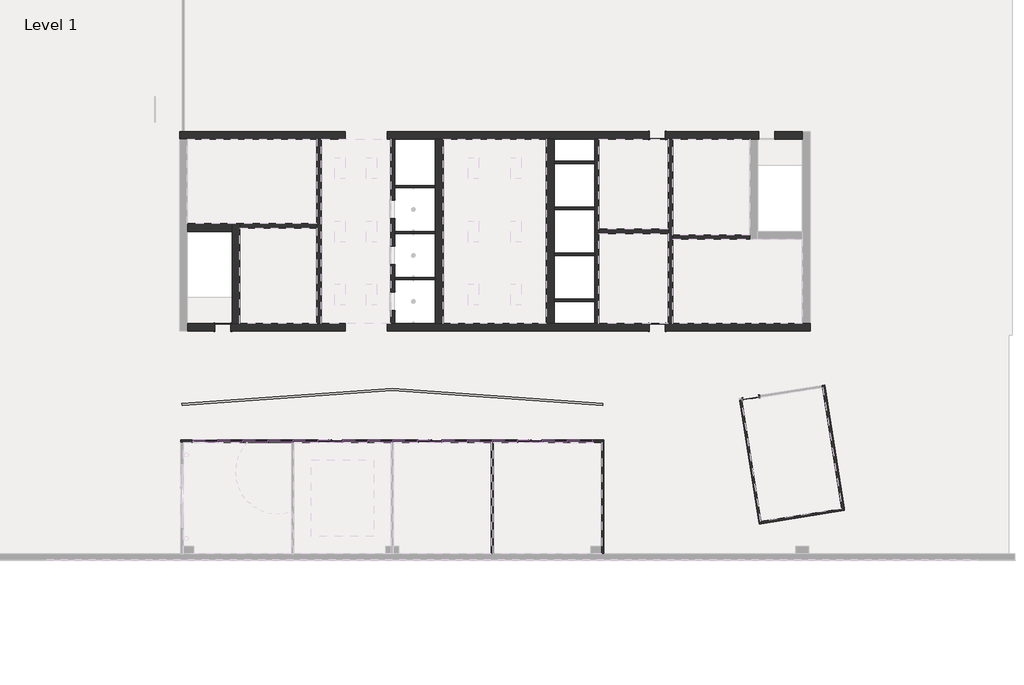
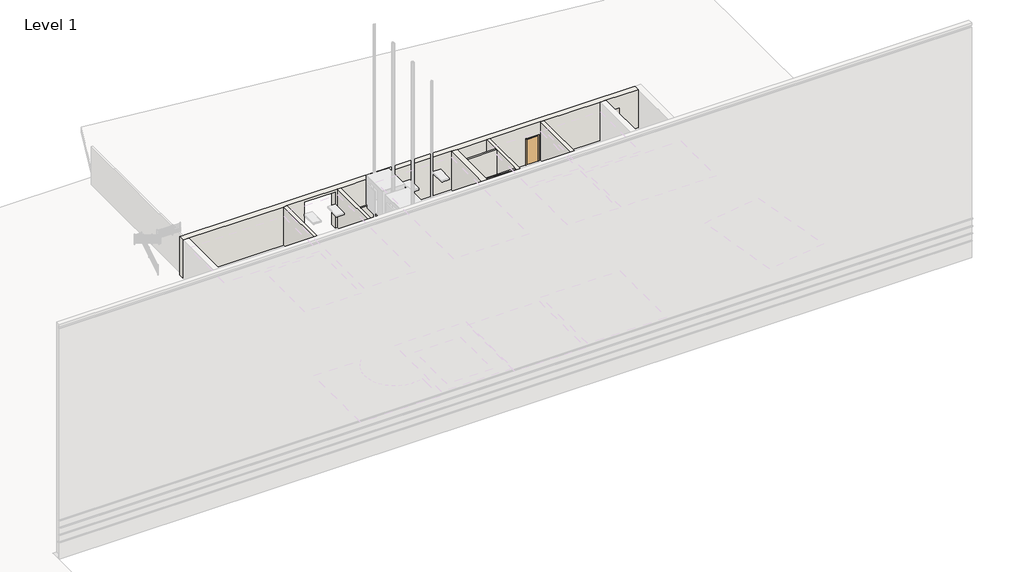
# One storey, part 7 of 23: 44 members, 27 walls, 13 plates, 7 doors.
"""IFC4 building model written with IfcOpenShell, lengths in millimetres."""

from ifc_helpers import new_model, si_unit, point, frame, frame_2d, origin, origin_with_axes, place, context, project, spatial, polyline, circle_curve, trimmed, segment, composite_curve, outline, extrude, faceted_brep, transform, mapped, element, save
from components import curtain_wall_dbl_glass_curtain_wall_dbl_glass_523d1701, door_a1797ceb, door_3c99239a, door_aec9db07, member_5adcf121, member_e7ed5742, member_19b6149e, member_c3403f11, system_panel_glazed_9bc9b24f, system_panel_glazed_76e4750d

model = new_model("IFC4")

# Units and contexts
model_context = context("Model", 3, world=origin())
ifc_project = project(units=[si_unit("LENGTHUNIT", "METRE", prefix="MILLI")], contexts=[model_context])

# Site, building, storey
site = spatial("IfcSite", under=ifc_project)
building = spatial("IfcBuilding", under=site)
storey = spatial("IfcBuildingStorey", under=building, Name="Level 1", Elevation=0.0)

# Doors
placement = place(None, origin())
curtain_wall_dbl_glass_curtain_wall_dbl_glass_shape = curtain_wall_dbl_glass_curtain_wall_dbl_glass_523d1701(model_context)
element("IfcDoor", 1, ObjectType="Curtain Wall Dbl Glass : Curtain Wall Dbl Glass", at=placement, inside=storey, context=model_context, shape_type="MappedRepresentation", body=[
    mapped(curtain_wall_dbl_glass_curtain_wall_dbl_glass_shape, transform((-24482.1740426, -21198.8103492, -25.4), x_axis=(-1.0, 0.0, 0.0), y_axis=(0.0, -1.0, 0.0), z_axis=(0.0, 0.0, 1.0))),
])
element("IfcDoor", 2, ObjectType="Curtain Wall Dbl Glass : Curtain Wall Dbl Glass", at=placement, inside=storey, context=model_context, shape_type="MappedRepresentation", body=[
    mapped(curtain_wall_dbl_glass_curtain_wall_dbl_glass_shape, transform((-18697.3240426, -21198.8103492, -25.4), x_axis=(-1.0, 0.0, 0.0), y_axis=(0.0, -1.0, 0.0), z_axis=(0.0, 0.0, 1.0))),
])
element("IfcDoor", 3, ObjectType="Curtain Wall Dbl Glass : Curtain Wall Dbl Glass", at=placement, inside=storey, context=model_context, shape_type="MappedRepresentation", body=[
    mapped(curtain_wall_dbl_glass_curtain_wall_dbl_glass_shape, transform((-12912.4740426, -21198.8103492, -25.4), x_axis=(-1.0, 0.0, 0.0), y_axis=(0.0, -1.0, 0.0), z_axis=(0.0, 0.0, 1.0))),
])
door_shape = door_a1797ceb(model_context)
element("IfcDoor", 4, ObjectType="Single-Flush : 36\" x 84\"", at=placement, inside=storey, context=model_context, shape_type="MappedRepresentation", body=[
    mapped(door_shape, transform((-99.7033757, -18682.6442583, 0.0), x_axis=(-0.9876883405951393, -0.15643446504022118, 0.0), y_axis=(0.15643446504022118, -0.9876883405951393, 0.0), z_axis=(0.0, 0.0, 1.0))),
])
door_2_shape = door_3c99239a(model_context)
element("IfcDoor", 5, ObjectType="Single-Flush : 36\" x 84\"", at=placement, inside=storey, context=model_context, shape_type="MappedRepresentation", body=[
    mapped(door_2_shape, transform((-30700.0713641, -14594.8103492, 0.0), x_axis=(1.0, 0.0, 0.0), y_axis=(0.0, 1.0, 0.0), z_axis=(0.0, 0.0, 1.0))),
])
element("IfcDoor", 6, ObjectType="Single-Flush : 36\" x 84\"", at=placement, inside=storey, context=model_context, shape_type="MappedRepresentation", body=[
    mapped(door_2_shape, transform((-5525.0427926, -14594.8103492, 0.0), x_axis=(1.0, 0.0, 0.0), y_axis=(0.0, 1.0, 0.0), z_axis=(0.0, 0.0, 1.0))),
])
door_3_shape = door_aec9db07(model_context)
element("IfcDoor", 7, ObjectType="Single-Flush : 36\" x 84\"", at=placement, inside=storey, context=model_context, shape_type="MappedRepresentation", body=[
    mapped(door_3_shape, transform((-5525.0427926, -3469.6103492, 0.0), x_axis=(1.0, 0.0, 0.0), y_axis=(0.0, 1.0, 0.0), z_axis=(0.0, 0.0, 1.0))),
])

# Members
member_shape = member_5adcf121(model_context)
element("IfcMember", 8, ObjectType="Rectangular Mullion : 2.5\" x 5\" rectangular", at=placement, inside=storey, context=model_context, shape_type="MappedRepresentation", body=[
    mapped(member_shape, transform((-30990.1302926, -21198.8103492, 38.1), x_axis=(1.0, 0.0, 0.0), y_axis=(0.0, -1.0, 0.0), z_axis=(0.0, 0.0, -1.0))),
])
element("IfcMember", 9, ObjectType="Rectangular Mullion : 2.5\" x 5\" rectangular", at=placement, inside=storey, context=model_context, shape_type="MappedRepresentation", body=[
    mapped(member_shape, transform((-29543.9177926, -21198.8103492, 38.1), x_axis=(1.0, 0.0, 0.0), y_axis=(0.0, -1.0, 0.0), z_axis=(0.0, 0.0, -1.0))),
])
element("IfcMember", 10, ObjectType="Rectangular Mullion : 2.5\" x 5\" rectangular", at=placement, inside=storey, context=model_context, shape_type="MappedRepresentation", body=[
    mapped(member_shape, transform((-28097.7052926, -21198.8103492, 38.1), x_axis=(1.0, 0.0, 0.0), y_axis=(0.0, -1.0, 0.0), z_axis=(0.0, 0.0, -1.0))),
])
element("IfcMember", 11, ObjectType="Rectangular Mullion : 2.5\" x 5\" rectangular", at=placement, inside=storey, context=model_context, shape_type="MappedRepresentation", body=[
    mapped(member_shape, transform((-26651.4927926, -21198.8103492, 38.1), x_axis=(1.0, 0.0, 0.0), y_axis=(0.0, -1.0, 0.0), z_axis=(0.0, 0.0, -1.0))),
])
element("IfcMember", 12, ObjectType="Rectangular Mullion : 2.5\" x 5\" rectangular", at=placement, inside=storey, context=model_context, shape_type="MappedRepresentation", body=[
    mapped(member_shape, transform((-25205.2802926, -21198.8103492, 38.1), x_axis=(1.0, 0.0, 0.0), y_axis=(0.0, -1.0, 0.0), z_axis=(0.0, 0.0, -1.0))),
])
element("IfcMember", 13, ObjectType="Rectangular Mullion : 2.5\" x 5\" rectangular", at=placement, inside=storey, context=model_context, shape_type="MappedRepresentation", body=[
    mapped(member_shape, transform((-23759.0677926, -21198.8103492, 38.1), x_axis=(1.0, 0.0, 0.0), y_axis=(0.0, -1.0, 0.0), z_axis=(0.0, 0.0, -1.0))),
])
element("IfcMember", 14, ObjectType="Rectangular Mullion : 2.5\" x 5\" rectangular", at=placement, inside=storey, context=model_context, shape_type="MappedRepresentation", body=[
    mapped(member_shape, transform((-22312.8552926, -21198.8103492, 38.1), x_axis=(1.0, 0.0, 0.0), y_axis=(0.0, -1.0, 0.0), z_axis=(0.0, 0.0, -1.0))),
])
element("IfcMember", 15, ObjectType="Rectangular Mullion : 2.5\" x 5\" rectangular", at=placement, inside=storey, context=model_context, shape_type="MappedRepresentation", body=[
    mapped(member_shape, transform((-20866.6427926, -21198.8103492, 38.1), x_axis=(1.0, 0.0, 0.0), y_axis=(0.0, -1.0, 0.0), z_axis=(0.0, 0.0, -1.0))),
])
element("IfcMember", 16, ObjectType="Rectangular Mullion : 2.5\" x 5\" rectangular", at=placement, inside=storey, context=model_context, shape_type="MappedRepresentation", body=[
    mapped(member_shape, transform((-19420.4302926, -21198.8103492, 38.1), x_axis=(1.0, 0.0, 0.0), y_axis=(0.0, -1.0, 0.0), z_axis=(0.0, 0.0, -1.0))),
])
element("IfcMember", 17, ObjectType="Rectangular Mullion : 2.5\" x 5\" rectangular", at=placement, inside=storey, context=model_context, shape_type="MappedRepresentation", body=[
    mapped(member_shape, transform((-17974.2177926, -21198.8103492, 38.1), x_axis=(1.0, 0.0, 0.0), y_axis=(0.0, -1.0, 0.0), z_axis=(0.0, 0.0, -1.0))),
])
element("IfcMember", 18, ObjectType="Rectangular Mullion : 2.5\" x 5\" rectangular", at=placement, inside=storey, context=model_context, shape_type="MappedRepresentation", body=[
    mapped(member_shape, transform((-16528.0052926, -21198.8103492, 38.1), x_axis=(1.0, 0.0, 0.0), y_axis=(0.0, -1.0, 0.0), z_axis=(0.0, 0.0, -1.0))),
])
element("IfcMember", 19, ObjectType="Rectangular Mullion : 2.5\" x 5\" rectangular", at=placement, inside=storey, context=model_context, shape_type="MappedRepresentation", body=[
    mapped(member_shape, transform((-15081.7927926, -21198.8103492, 38.1), x_axis=(1.0, 0.0, 0.0), y_axis=(0.0, -1.0, 0.0), z_axis=(0.0, 0.0, -1.0))),
])
element("IfcMember", 20, ObjectType="Rectangular Mullion : 2.5\" x 5\" rectangular", at=placement, inside=storey, context=model_context, shape_type="MappedRepresentation", body=[
    mapped(member_shape, transform((-13635.5802926, -21198.8103492, 38.1), x_axis=(1.0, 0.0, 0.0), y_axis=(0.0, -1.0, 0.0), z_axis=(0.0, 0.0, -1.0))),
])
element("IfcMember", 21, ObjectType="Rectangular Mullion : 2.5\" x 5\" rectangular", at=placement, inside=storey, context=model_context, shape_type="MappedRepresentation", body=[
    mapped(member_shape, transform((-12189.3677926, -21198.8103492, 38.1), x_axis=(1.0, 0.0, 0.0), y_axis=(0.0, -1.0, 0.0), z_axis=(0.0, 0.0, -1.0))),
])
element("IfcMember", 22, ObjectType="Rectangular Mullion : 2.5\" x 5\" rectangular", at=placement, inside=storey, context=model_context, shape_type="MappedRepresentation", body=[
    mapped(member_shape, transform((-10743.1552926, -21198.8103492, 38.1), x_axis=(1.0, 0.0, 0.0), y_axis=(0.0, -1.0, 0.0), z_axis=(0.0, 0.0, -1.0))),
])
member_2_shape = member_e7ed5742(model_context)
element("IfcMember", 23, ObjectType="Rectangular Mullion : 2.5\" x 5\" rectangular", at=placement, inside=storey, context=model_context, shape_type="MappedRepresentation", body=[
    mapped(member_2_shape, transform((-9296.9427926, -21198.8103492, 38.1), x_axis=(1.0, 0.0, 0.0), y_axis=(0.0, -1.0, 0.0), z_axis=(0.0, 0.0, -1.0))),
])
member_3_shape = member_19b6149e(model_context)
element("IfcMember", 24, ObjectType="Rectangular Mullion : 2.5\" x 5\" rectangular", at=placement, inside=storey, context=model_context, shape_type="MappedRepresentation", body=[
    mapped(member_3_shape, transform((-9296.9427926, -21198.8103492, 2413.0), x_axis=(0.0, 0.0, 1.0), y_axis=(0.0, -1.0, 0.0), z_axis=(1.0, 0.0, 0.0))),
])
element("IfcMember", 25, ObjectType="Rectangular Mullion : 2.5\" x 5\" rectangular", at=placement, inside=storey, context=model_context, shape_type="MappedRepresentation", body=[
    mapped(member_3_shape, transform((-30990.1302926, -21198.8103492, 2413.0), x_axis=(0.0, 0.0, 1.0), y_axis=(0.0, -1.0, 0.0), z_axis=(1.0, 0.0, 0.0))),
])
element("IfcMember", 26, ObjectType="Rectangular Mullion : 2.5\" x 5\" rectangular", at=placement, inside=storey, context=model_context, shape_type="MappedRepresentation", body=[
    mapped(member_3_shape, transform((-29543.9177926, -21198.8103492, 2413.0), x_axis=(0.0, 0.0, 1.0), y_axis=(0.0, -1.0, 0.0), z_axis=(1.0, 0.0, 0.0))),
])
element("IfcMember", 27, ObjectType="Rectangular Mullion : 2.5\" x 5\" rectangular", at=placement, inside=storey, context=model_context, shape_type="MappedRepresentation", body=[
    mapped(member_3_shape, transform((-28097.7052926, -21198.8103492, 2413.0), x_axis=(0.0, 0.0, 1.0), y_axis=(0.0, -1.0, 0.0), z_axis=(1.0, 0.0, 0.0))),
])
element("IfcMember", 28, ObjectType="Rectangular Mullion : 2.5\" x 5\" rectangular", at=placement, inside=storey, context=model_context, shape_type="MappedRepresentation", body=[
    mapped(member_3_shape, transform((-26651.4927926, -21198.8103492, 2413.0), x_axis=(0.0, 0.0, 1.0), y_axis=(0.0, -1.0, 0.0), z_axis=(1.0, 0.0, 0.0))),
])
element("IfcMember", 29, ObjectType="Rectangular Mullion : 2.5\" x 5\" rectangular", at=placement, inside=storey, context=model_context, shape_type="MappedRepresentation", body=[
    mapped(member_3_shape, transform((-25205.2802926, -21198.8103492, 2413.0), x_axis=(0.0, 0.0, 1.0), y_axis=(0.0, -1.0, 0.0), z_axis=(1.0, 0.0, 0.0))),
])
element("IfcMember", 30, ObjectType="Rectangular Mullion : 2.5\" x 5\" rectangular", at=placement, inside=storey, context=model_context, shape_type="MappedRepresentation", body=[
    mapped(member_3_shape, transform((-23759.0677926, -21198.8103492, 2413.0), x_axis=(0.0, 0.0, 1.0), y_axis=(0.0, -1.0, 0.0), z_axis=(1.0, 0.0, 0.0))),
])
element("IfcMember", 31, ObjectType="Rectangular Mullion : 2.5\" x 5\" rectangular", at=placement, inside=storey, context=model_context, shape_type="MappedRepresentation", body=[
    mapped(member_3_shape, transform((-22312.8552926, -21198.8103492, 2413.0), x_axis=(0.0, 0.0, 1.0), y_axis=(0.0, -1.0, 0.0), z_axis=(1.0, 0.0, 0.0))),
])
element("IfcMember", 32, ObjectType="Rectangular Mullion : 2.5\" x 5\" rectangular", at=placement, inside=storey, context=model_context, shape_type="MappedRepresentation", body=[
    mapped(member_3_shape, transform((-20866.6427926, -21198.8103492, 2413.0), x_axis=(0.0, 0.0, 1.0), y_axis=(0.0, -1.0, 0.0), z_axis=(1.0, 0.0, 0.0))),
])
element("IfcMember", 33, ObjectType="Rectangular Mullion : 2.5\" x 5\" rectangular", at=placement, inside=storey, context=model_context, shape_type="MappedRepresentation", body=[
    mapped(member_3_shape, transform((-19420.4302926, -21198.8103492, 2413.0), x_axis=(0.0, 0.0, 1.0), y_axis=(0.0, -1.0, 0.0), z_axis=(1.0, 0.0, 0.0))),
])
element("IfcMember", 34, ObjectType="Rectangular Mullion : 2.5\" x 5\" rectangular", at=placement, inside=storey, context=model_context, shape_type="MappedRepresentation", body=[
    mapped(member_3_shape, transform((-17974.2177926, -21198.8103492, 2413.0), x_axis=(0.0, 0.0, 1.0), y_axis=(0.0, -1.0, 0.0), z_axis=(1.0, 0.0, 0.0))),
])
element("IfcMember", 35, ObjectType="Rectangular Mullion : 2.5\" x 5\" rectangular", at=placement, inside=storey, context=model_context, shape_type="MappedRepresentation", body=[
    mapped(member_3_shape, transform((-16528.0052926, -21198.8103492, 2413.0), x_axis=(0.0, 0.0, 1.0), y_axis=(0.0, -1.0, 0.0), z_axis=(1.0, 0.0, 0.0))),
])
element("IfcMember", 36, ObjectType="Rectangular Mullion : 2.5\" x 5\" rectangular", at=placement, inside=storey, context=model_context, shape_type="MappedRepresentation", body=[
    mapped(member_3_shape, transform((-15081.7927926, -21198.8103492, 2413.0), x_axis=(0.0, 0.0, 1.0), y_axis=(0.0, -1.0, 0.0), z_axis=(1.0, 0.0, 0.0))),
])
element("IfcMember", 37, ObjectType="Rectangular Mullion : 2.5\" x 5\" rectangular", at=placement, inside=storey, context=model_context, shape_type="MappedRepresentation", body=[
    mapped(member_3_shape, transform((-13635.5802926, -21198.8103492, 2413.0), x_axis=(0.0, 0.0, 1.0), y_axis=(0.0, -1.0, 0.0), z_axis=(1.0, 0.0, 0.0))),
])
element("IfcMember", 38, ObjectType="Rectangular Mullion : 2.5\" x 5\" rectangular", at=placement, inside=storey, context=model_context, shape_type="MappedRepresentation", body=[
    mapped(member_3_shape, transform((-12189.3677926, -21198.8103492, 2413.0), x_axis=(0.0, 0.0, 1.0), y_axis=(0.0, -1.0, 0.0), z_axis=(1.0, 0.0, 0.0))),
])
element("IfcMember", 39, ObjectType="Rectangular Mullion : 2.5\" x 5\" rectangular", at=placement, inside=storey, context=model_context, shape_type="MappedRepresentation", body=[
    mapped(member_3_shape, transform((-10743.1552926, -21198.8103492, 2413.0), x_axis=(0.0, 0.0, 1.0), y_axis=(0.0, -1.0, 0.0), z_axis=(1.0, 0.0, 0.0))),
])
element("IfcMember", 40, ObjectType="Rectangular Mullion : 2.5\" x 5\" rectangular", at=placement, inside=storey, context=model_context, shape_type="MappedRepresentation", body=[
    mapped(member_3_shape, transform((-30990.1302926, -21198.8103492, -25.4), x_axis=(0.0, 0.0, -1.0), y_axis=(0.0, -1.0, 0.0), z_axis=(-1.0, 0.0, 0.0))),
])
element("IfcMember", 41, ObjectType="Rectangular Mullion : 2.5\" x 5\" rectangular", at=placement, inside=storey, context=model_context, shape_type="MappedRepresentation", body=[
    mapped(member_3_shape, transform((-29543.9177926, -21198.8103492, -25.4), x_axis=(0.0, 0.0, -1.0), y_axis=(0.0, -1.0, 0.0), z_axis=(-1.0, 0.0, 0.0))),
])
element("IfcMember", 42, ObjectType="Rectangular Mullion : 2.5\" x 5\" rectangular", at=placement, inside=storey, context=model_context, shape_type="MappedRepresentation", body=[
    mapped(member_3_shape, transform((-28097.7052926, -21198.8103492, -25.4), x_axis=(0.0, 0.0, -1.0), y_axis=(0.0, -1.0, 0.0), z_axis=(-1.0, 0.0, 0.0))),
])
element("IfcMember", 43, ObjectType="Rectangular Mullion : 2.5\" x 5\" rectangular", at=placement, inside=storey, context=model_context, shape_type="MappedRepresentation", body=[
    mapped(member_3_shape, transform((-22312.8552926, -21198.8103492, -25.4), x_axis=(0.0, 0.0, -1.0), y_axis=(0.0, -1.0, 0.0), z_axis=(-1.0, 0.0, 0.0))),
])
element("IfcMember", 44, ObjectType="Rectangular Mullion : 2.5\" x 5\" rectangular", at=placement, inside=storey, context=model_context, shape_type="MappedRepresentation", body=[
    mapped(member_3_shape, transform((-16528.0052926, -21198.8103492, -25.4), x_axis=(0.0, 0.0, -1.0), y_axis=(0.0, -1.0, 0.0), z_axis=(-1.0, 0.0, 0.0))),
])
element("IfcMember", 45, ObjectType="Rectangular Mullion : 2.5\" x 5\" rectangular", at=placement, inside=storey, context=model_context, shape_type="MappedRepresentation", body=[
    mapped(member_3_shape, transform((-10743.1552926, -21198.8103492, -25.4), x_axis=(0.0, 0.0, -1.0), y_axis=(0.0, -1.0, 0.0), z_axis=(-1.0, 0.0, 0.0))),
])
member_4_shape = member_c3403f11(model_context)
element("IfcMember", 46, ObjectType="Rectangular Mullion : 2.5\" x 5\" rectangular", at=placement, inside=storey, context=model_context, shape_type="MappedRepresentation", body=[
    mapped(member_4_shape, transform((-26651.4927926, -21198.8103492, -25.4), x_axis=(0.0, 0.0, -1.0), y_axis=(0.0, -1.0, 0.0), z_axis=(-1.0, 0.0, 0.0))),
])
element("IfcMember", 47, ObjectType="Rectangular Mullion : 2.5\" x 5\" rectangular", at=placement, inside=storey, context=model_context, shape_type="MappedRepresentation", body=[
    mapped(member_4_shape, transform((-20866.6427926, -21198.8103492, -25.4), x_axis=(0.0, 0.0, -1.0), y_axis=(0.0, -1.0, 0.0), z_axis=(-1.0, 0.0, 0.0))),
])
element("IfcMember", 48, ObjectType="Rectangular Mullion : 2.5\" x 5\" rectangular", at=placement, inside=storey, context=model_context, shape_type="MappedRepresentation", body=[
    mapped(member_4_shape, transform((-15081.7927926, -21198.8103492, -25.4), x_axis=(0.0, 0.0, -1.0), y_axis=(0.0, -1.0, 0.0), z_axis=(-1.0, 0.0, 0.0))),
])
element("IfcMember", 49, ObjectType="Rectangular Mullion : 2.5\" x 5\" rectangular", at=placement, inside=storey, context=model_context, shape_type="MappedRepresentation", body=[
    mapped(member_4_shape, transform((-23790.8177926, -21198.8103492, -25.4), x_axis=(0.0, 0.0, -1.0), y_axis=(0.0, -1.0, 0.0), z_axis=(-1.0, 0.0, 0.0))),
])
element("IfcMember", 50, ObjectType="Rectangular Mullion : 2.5\" x 5\" rectangular", at=placement, inside=storey, context=model_context, shape_type="MappedRepresentation", body=[
    mapped(member_4_shape, transform((-18005.9677926, -21198.8103492, -25.4), x_axis=(0.0, 0.0, -1.0), y_axis=(0.0, -1.0, 0.0), z_axis=(-1.0, 0.0, 0.0))),
])
element("IfcMember", 51, ObjectType="Rectangular Mullion : 2.5\" x 5\" rectangular", at=placement, inside=storey, context=model_context, shape_type="MappedRepresentation", body=[
    mapped(member_4_shape, transform((-12221.1177926, -21198.8103492, -25.4), x_axis=(0.0, 0.0, -1.0), y_axis=(0.0, -1.0, 0.0), z_axis=(-1.0, 0.0, 0.0))),
])

# Plates
system_panel_glazed_shape = system_panel_glazed_9bc9b24f(model_context)
element("IfcPlate", 52, ObjectType="System Panel : Glazed", at=placement, inside=storey, context=model_context, shape_type="MappedRepresentation", body=[
    mapped(system_panel_glazed_shape, transform((-31697.3615426, -21198.8103492, 38.1), x_axis=(1.0, 0.0, 0.0), y_axis=(0.0, 1.0, 0.0), z_axis=(0.0, 0.0, 1.0))),
])
element("IfcPlate", 53, ObjectType="System Panel : Glazed", at=placement, inside=storey, context=model_context, shape_type="MappedRepresentation", body=[
    mapped(system_panel_glazed_shape, transform((-10035.9240426, -21198.8103492, 38.1), x_axis=(1.0, 0.0, 0.0), y_axis=(0.0, 1.0, 0.0), z_axis=(0.0, 0.0, 1.0))),
])
system_panel_glazed_2_shape = system_panel_glazed_76e4750d(model_context)
element("IfcPlate", 54, ObjectType="System Panel : Glazed", at=placement, inside=storey, context=model_context, shape_type="MappedRepresentation", body=[
    mapped(system_panel_glazed_2_shape, transform((-30267.0240426, -21198.8103492, 38.1), x_axis=(1.0, 0.0, 0.0), y_axis=(0.0, 1.0, 0.0), z_axis=(0.0, 0.0, 1.0))),
])
element("IfcPlate", 55, ObjectType="System Panel : Glazed", at=placement, inside=storey, context=model_context, shape_type="MappedRepresentation", body=[
    mapped(system_panel_glazed_2_shape, transform((-28820.8115426, -21198.8103492, 38.1), x_axis=(1.0, 0.0, 0.0), y_axis=(0.0, 1.0, 0.0), z_axis=(0.0, 0.0, 1.0))),
])
element("IfcPlate", 56, ObjectType="System Panel : Glazed", at=placement, inside=storey, context=model_context, shape_type="MappedRepresentation", body=[
    mapped(system_panel_glazed_2_shape, transform((-27374.5990426, -21198.8103492, 38.1), x_axis=(1.0, 0.0, 0.0), y_axis=(0.0, 1.0, 0.0), z_axis=(0.0, 0.0, 1.0))),
])
element("IfcPlate", 57, ObjectType="System Panel : Glazed", at=placement, inside=storey, context=model_context, shape_type="MappedRepresentation", body=[
    mapped(system_panel_glazed_2_shape, transform((-25928.3865426, -21198.8103492, 38.1), x_axis=(1.0, 0.0, 0.0), y_axis=(0.0, 1.0, 0.0), z_axis=(0.0, 0.0, 1.0))),
])
element("IfcPlate", 58, ObjectType="System Panel : Glazed", at=placement, inside=storey, context=model_context, shape_type="MappedRepresentation", body=[
    mapped(system_panel_glazed_2_shape, transform((-23035.9615426, -21198.8103492, 38.1), x_axis=(1.0, 0.0, 0.0), y_axis=(0.0, 1.0, 0.0), z_axis=(0.0, 0.0, 1.0))),
])
element("IfcPlate", 59, ObjectType="System Panel : Glazed", at=placement, inside=storey, context=model_context, shape_type="MappedRepresentation", body=[
    mapped(system_panel_glazed_2_shape, transform((-21589.7490426, -21198.8103492, 38.1), x_axis=(1.0, 0.0, 0.0), y_axis=(0.0, 1.0, 0.0), z_axis=(0.0, 0.0, 1.0))),
])
element("IfcPlate", 60, ObjectType="System Panel : Glazed", at=placement, inside=storey, context=model_context, shape_type="MappedRepresentation", body=[
    mapped(system_panel_glazed_2_shape, transform((-20143.5365426, -21198.8103492, 38.1), x_axis=(1.0, 0.0, 0.0), y_axis=(0.0, 1.0, 0.0), z_axis=(0.0, 0.0, 1.0))),
])
element("IfcPlate", 61, ObjectType="System Panel : Glazed", at=placement, inside=storey, context=model_context, shape_type="MappedRepresentation", body=[
    mapped(system_panel_glazed_2_shape, transform((-17251.1115426, -21198.8103492, 38.1), x_axis=(1.0, 0.0, 0.0), y_axis=(0.0, 1.0, 0.0), z_axis=(0.0, 0.0, 1.0))),
])
element("IfcPlate", 62, ObjectType="System Panel : Glazed", at=placement, inside=storey, context=model_context, shape_type="MappedRepresentation", body=[
    mapped(system_panel_glazed_2_shape, transform((-15804.8990426, -21198.8103492, 38.1), x_axis=(1.0, 0.0, 0.0), y_axis=(0.0, 1.0, 0.0), z_axis=(0.0, 0.0, 1.0))),
])
element("IfcPlate", 63, ObjectType="System Panel : Glazed", at=placement, inside=storey, context=model_context, shape_type="MappedRepresentation", body=[
    mapped(system_panel_glazed_2_shape, transform((-14358.6865426, -21198.8103492, 38.1), x_axis=(1.0, 0.0, 0.0), y_axis=(0.0, 1.0, 0.0), z_axis=(0.0, 0.0, 1.0))),
])
element("IfcPlate", 64, ObjectType="System Panel : Glazed", at=placement, inside=storey, context=model_context, shape_type="MappedRepresentation", body=[
    mapped(system_panel_glazed_2_shape, transform((-11466.2615426, -21198.8103492, 38.1), x_axis=(1.0, 0.0, 0.0), y_axis=(0.0, 1.0, 0.0), z_axis=(0.0, 0.0, 1.0))),
])

# Walls
element("IfcWall", 65, ObjectType="Core-shaft 10\" Concrete", at=placement, inside=storey, context=model_context, shape_type="SweptSolid", body=[
    extrude(outline(polyline([(-3698.2103492, 0.0), (-7222.4603492, 0.0), (-7222.4603492, 2159.0), (-8301.9603492, 2159.0), (-8301.9603492, 0.0), (-9889.4603492, 0.0), (-9889.4603492, 2159.0), (-10968.9603492, 2159.0), (-10968.9603492, 0.0), (-12556.4603492, 0.0), (-12556.4603492, 2159.0), (-13635.9603492, 2159.0), (-13635.9603492, 0.0), (-14366.2103492, 0.0), (-14366.2103492, 3222.625), (-3698.2103492, 3222.625), (-3698.2103492, 0.0)])), frame((-20979.1285069, 0.0, 0.0), z_axis=(1.0, 0.0, 0.0), x_axis=(0.0, 1.0, 0.0)), (0.0, 0.0, 1.0), 254.0),
])
element("IfcWall", 66, ObjectType="Core-shaft 10\" Concrete", at=placement, inside=storey, context=model_context, shape_type="Brep", body=[
    faceted_brep([(-24992.3285069, -14366.2103492, 0.0), (-24992.3285069, -3698.2103492, 0.0), (-24992.3285069, -3698.2103492, 3222.625), (-24992.3285069, -14366.2103492, 3222.625), (-25246.3285069, -14366.2103492, 0.0), (-25246.3285069, -14366.2103492, 3222.625), (-25246.3285069, -8829.0103492, 3222.625), (-25246.3285069, -8575.0103492, 3222.625), (-25246.3285069, -3698.2103492, 3222.625), (-25246.3285069, -3698.2103492, 0.0), (-25246.3285069, -8575.0103492, 0.0), (-25246.3285069, -8829.0103492, 0.0)], [[[0, 1, 2, 3]], [[4, 5, 6, 7, 8, 9, 10, 11]], [[1, 0, 4, 11, 10, 9]], [[2, 1, 9, 8]], [[0, 3, 5, 4]], [[3, 2, 8, 7, 6, 5]]]),
])
element("IfcWall", 67, ObjectType="Core-shaft 10\" Concrete", at=placement, inside=storey, context=model_context, shape_type="SweptSolid", body=[
    extrude(outline(polyline([(-25246.3285069, -8829.0103492), (-29709.4713641, -8829.0103492), (-29709.4713641, -8575.0103492), (-25246.3285069, -8575.0103492), (-25246.3285069, -8829.0103492)])), origin_with_axes(), (0.0, 0.0, 1.0), 3222.625),
])
element("IfcWall", 68, ObjectType="Core-shaft 10\" Concrete", at=placement, inside=storey, context=model_context, shape_type="SweptSolid", body=[
    extrude(outline(polyline([(-8903.2427926, -3698.2103492), (-8903.2427926, -14366.2103492), (-9157.2427926, -14366.2103492), (-9157.2427926, -3698.2103492), (-8903.2427926, -3698.2103492)])), origin_with_axes(), (0.0, 0.0, 1.0), 3222.625),
])
element("IfcWall", 69, ObjectType="Core-shaft 10\" Concrete", at=placement, inside=storey, context=model_context, shape_type="Brep", body=[
    faceted_brep([(-4636.0427926, -14366.2103492, 0.0), (-4636.0427926, -9489.4103492, 0.0), (-4636.0427926, -9235.4103492, 0.0), (-4636.0427926, -3698.2103492, 0.0), (-4636.0427926, -3698.2103492, 3222.625), (-4636.0427926, -9235.4103492, 3222.625), (-4636.0427926, -9489.4103492, 3222.625), (-4636.0427926, -14366.2103492, 3222.625), (-4890.0427926, -14366.2103492, 0.0), (-4890.0427926, -14366.2103492, 3222.625), (-4890.0427926, -3698.2103492, 3222.625), (-4890.0427926, -3698.2103492, 0.0)], [[[0, 1, 2, 3, 4, 5, 6, 7]], [[8, 9, 10, 11]], [[3, 2, 1, 0, 8, 11]], [[4, 3, 11, 10]], [[0, 7, 9, 8]], [[7, 6, 5, 4, 10, 9]]]),
])
element("IfcWall", 70, ObjectType="Core-shaft 10\" Concrete", at=placement, inside=storey, context=model_context, shape_type="SweptSolid", body=[
    extrude(outline(polyline([(-4636.0427926, -9235.4103492), (-172.8999355, -9235.4103492), (-172.8999355, -9489.4103492), (-4636.0427926, -9489.4103492), (-4636.0427926, -9235.4103492)])), origin_with_axes(), (0.0, 0.0, 1.0), 3222.625),
])
element("IfcWall", 71, ObjectType="Core-shaft 10\" Concrete", at=placement, inside=storey, context=model_context, shape_type="SweptSolid", body=[
    extrude(outline(polyline([(-8903.2427926, -8905.2103492), (-4890.0427926, -8905.2103492), (-4890.0427926, -9159.2103492), (-8903.2427926, -9159.2103492), (-8903.2427926, -8905.2103492)])), origin_with_axes(), (0.0, 0.0, 1.0), 3222.625),
])
element("IfcWall", 72, ObjectType="Core-shaft 18\" Concrete", at=placement, inside=storey, context=model_context, shape_type="Brep", body=[
    faceted_brep([(3325.0429217, -14366.2103492, 0.0), (2867.8429217, -14366.2103492, 0.0), (-4636.0427926, -14366.2103492, 0.0), (-4890.0427926, -14366.2103492, 0.0), (-5067.8427926, -14366.2103492, 0.0), (-5067.8427926, -14366.2103492, 2133.6), (-5982.2427926, -14366.2103492, 2133.6), (-5982.2427926, -14366.2103492, 0.0), (-8903.2427926, -14366.2103492, 0.0), (-9157.2427926, -14366.2103492, 0.0), (-11497.2428559, -14366.2103492, 0.0), (-11954.4428559, -14366.2103492, 0.0), (-17927.9284437, -14366.2103492, 0.0), (-18385.1284437, -14366.2103492, 0.0), (-20725.1285069, -14366.2103492, 0.0), (-20979.1285069, -14366.2103492, 0.0), (-21167.8142212, -14366.2103492, 0.0), (-21167.8142212, -14366.2103492, 3048.0), (-23606.2142212, -14366.2103492, 3048.0), (-23606.2142212, -14366.2103492, 0.0), (-24992.3285069, -14366.2103492, 0.0), (-25246.3285069, -14366.2103492, 0.0), (-29709.4713641, -14366.2103492, 0.0), (-30166.6713641, -14366.2103492, 0.0), (-30242.8713641, -14366.2103492, 0.0), (-30242.8713641, -14366.2103492, 2133.6), (-31157.2713641, -14366.2103492, 2133.6), (-31157.2713641, -14366.2103492, 0.0), (-32750.2142212, -14366.2103492, 0.0), (-32750.2142212, -14366.2103492, 3222.625), (-30166.6713641, -14366.2103492, 3222.625), (-29709.4713641, -14366.2103492, 3222.625), (-25246.3285069, -14366.2103492, 3222.625), (-24992.3285069, -14366.2103492, 3222.625), (-20979.1285069, -14366.2103492, 3222.625), (-20725.1285069, -14366.2103492, 3222.625), (-18385.1284437, -14366.2103492, 3222.625), (-17927.9284437, -14366.2103492, 3222.625), (-11954.4428559, -14366.2103492, 3222.625), (-11497.2428559, -14366.2103492, 3222.625), (-9157.2427926, -14366.2103492, 3222.625), (-8903.2427926, -14366.2103492, 3222.625), (-4890.0427926, -14366.2103492, 3222.625), (-4636.0427926, -14366.2103492, 3222.625), (2867.8429217, -14366.2103492, 3222.625), (3325.0429217, -14366.2103492, 3222.625), (-5067.8427926, -14823.4103492, 2133.6), (-5067.8427926, -14823.4103492, 0.0), (3325.0429217, -14823.4103492, 0.0), (3325.0429217, -14823.4103492, 3222.625), (-32750.2142212, -14823.4103492, 3222.625), (-32750.2142212, -14823.4103492, 0.0), (-31157.2713641, -14823.4103492, 0.0), (-31157.2713641, -14823.4103492, 2133.6), (-30242.8713641, -14823.4103492, 2133.6), (-30242.8713641, -14823.4103492, 0.0), (-23606.2142212, -14823.4103492, 0.0), (-23606.2142212, -14823.4103492, 3048.0), (-21167.8142212, -14823.4103492, 3048.0), (-21167.8142212, -14823.4103492, 0.0), (-5982.2427926, -14823.4103492, 0.0), (-5982.2427926, -14823.4103492, 2133.6)], [[[0, 1, 2, 3, 4, 5, 6, 7, 8, 9, 10, 11, 12, 13, 14, 15, 16, 17, 18, 19, 20, 21, 22, 23, 24, 25, 26, 27, 28, 29, 30, 31, 32, 33, 34, 35, 36, 37, 38, 39, 40, 41, 42, 43, 44, 45]], [[46, 47, 48, 49, 50, 51, 52, 53, 54, 55, 56, 57, 58, 59, 60, 61]], [[52, 51, 28, 27]], [[56, 55, 24, 23, 22, 21, 20, 19]], [[60, 59, 16, 15, 14, 13, 12, 11, 10, 9, 8, 7]], [[48, 47, 4, 3, 2, 1, 0]], [[17, 58, 57, 18]], [[58, 17, 16, 59]], [[18, 57, 56, 19]], [[25, 24, 55, 54]], [[26, 25, 54, 53]], [[27, 26, 53, 52]], [[0, 45, 49, 48]], [[29, 28, 51, 50]], [[5, 4, 47, 46]], [[6, 5, 46, 61]], [[7, 6, 61, 60]], [[45, 44, 43, 42, 41, 40, 39, 38, 37, 36, 35, 34, 33, 32, 31, 30, 29, 50, 49]]]),
])
element("IfcWall", 73, ObjectType="Core-shaft 18\" Concrete", at=placement, inside=storey, context=model_context, shape_type="Brep", body=[
    faceted_brep([(-5067.8427926, -3698.2103492, 2133.6), (-5067.8427926, -3698.2103492, 0.0), (-4890.0427926, -3698.2103492, 0.0), (-4636.0427926, -3698.2103492, 0.0), (-172.8999355, -3698.2103492, 0.0), (284.3000645, -3698.2103492, 0.0), (360.5000645, -3698.2103492, 0.0), (360.5000645, -3698.2103492, 2133.6), (1274.9000645, -3698.2103492, 2133.6), (1274.9000645, -3698.2103492, 0.0), (2867.8429217, -3698.2103492, 0.0), (2867.8429217, -3698.2103492, 3222.625), (284.3000645, -3698.2103492, 3222.625), (-172.8999355, -3698.2103492, 3222.625), (-4636.0427926, -3698.2103492, 3222.625), (-4890.0427926, -3698.2103492, 3222.625), (-8903.2427926, -3698.2103492, 3222.625), (-9157.2427926, -3698.2103492, 3222.625), (-11497.2428559, -3698.2103492, 3222.625), (-11954.4428559, -3698.2103492, 3222.625), (-17927.9284437, -3698.2103492, 3222.625), (-18385.1284437, -3698.2103492, 3222.625), (-20725.1285069, -3698.2103492, 3222.625), (-20979.1285069, -3698.2103492, 3222.625), (-24992.3285069, -3698.2103492, 3222.625), (-25246.3285069, -3698.2103492, 3222.625), (-32750.2142212, -3698.2103492, 3222.625), (-33207.4142212, -3698.2103492, 3222.625), (-33207.4142212, -3698.2103492, 0.0), (-32750.2142212, -3698.2103492, 0.0), (-25246.3285069, -3698.2103492, 0.0), (-24992.3285069, -3698.2103492, 0.0), (-23606.2142212, -3698.2103492, 0.0), (-23606.2142212, -3698.2103492, 3048.0), (-21167.8142212, -3698.2103492, 3048.0), (-21167.8142212, -3698.2103492, 0.0), (-20979.1285069, -3698.2103492, 0.0), (-20725.1285069, -3698.2103492, 0.0), (-18385.1284437, -3698.2103492, 0.0), (-17927.9284437, -3698.2103492, 0.0), (-11954.4428559, -3698.2103492, 0.0), (-11497.2428559, -3698.2103492, 0.0), (-9157.2427926, -3698.2103492, 0.0), (-8903.2427926, -3698.2103492, 0.0), (-5982.2427926, -3698.2103492, 0.0), (-5982.2427926, -3698.2103492, 2133.6), (360.5000645, -3241.0103492, 0.0), (-5067.8427926, -3241.0103492, 0.0), (-5067.8427926, -3241.0103492, 2133.6), (-5982.2427926, -3241.0103492, 2133.6), (-5982.2427926, -3241.0103492, 0.0), (-21167.8142212, -3241.0103492, 0.0), (-21167.8142212, -3241.0103492, 3048.0), (-23606.2142212, -3241.0103492, 3048.0), (-23606.2142212, -3241.0103492, 0.0), (-33207.4142212, -3241.0103492, 0.0), (-33207.4142212, -3241.0103492, 3222.625), (2867.8429217, -3241.0103492, 3222.625), (2867.8429217, -3241.0103492, 0.0), (1274.9000645, -3241.0103492, 0.0), (1274.9000645, -3241.0103492, 2133.6), (360.5000645, -3241.0103492, 2133.6)], [[[0, 1, 2, 3, 4, 5, 6, 7, 8, 9, 10, 11, 12, 13, 14, 15, 16, 17, 18, 19, 20, 21, 22, 23, 24, 25, 26, 27, 28, 29, 30, 31, 32, 33, 34, 35, 36, 37, 38, 39, 40, 41, 42, 43, 44, 45]], [[46, 47, 48, 49, 50, 51, 52, 53, 54, 55, 56, 57, 58, 59, 60, 61]], [[28, 55, 54, 32, 31, 30, 29]], [[59, 58, 10, 9]], [[44, 43, 42, 41, 40, 39, 38, 37, 36, 35, 51, 50]], [[6, 5, 4, 3, 2, 1, 47, 46]], [[33, 53, 52, 34]], [[53, 33, 32, 54]], [[34, 52, 51, 35]], [[7, 6, 46, 61]], [[8, 7, 61, 60]], [[9, 8, 60, 59]], [[28, 27, 56, 55]], [[11, 10, 58, 57]], [[48, 47, 1, 0]], [[49, 48, 0, 45]], [[50, 49, 45, 44]], [[27, 26, 25, 24, 23, 22, 21, 20, 19, 18, 17, 16, 15, 14, 13, 12, 11, 57, 56]]]),
])
element("IfcWall", 74, ObjectType="Core-shaft 18\" Concrete", at=placement, inside=storey, context=model_context, shape_type="SweptSolid", body=[
    extrude(outline(polyline([(-18385.1284437, -14366.2103492), (-18385.1284437, -3698.2103492), (-17927.9284437, -3698.2103492), (-17927.9284437, -14366.2103492), (-18385.1284437, -14366.2103492)])), origin_with_axes(), (0.0, 0.0, 1.0), 3222.625),
])
element("IfcWall", 75, ObjectType="Core-shaft 18\" Concrete", at=placement, inside=storey, context=model_context, shape_type="Brep", body=[
    faceted_brep([(-29709.4713641, -14366.2103492, 0.0), (-29709.4713641, -8829.0103492, 0.0), (-29709.4713641, -8575.0103492, 0.0), (-29709.4713641, -8575.0103492, 3222.625), (-29709.4713641, -8829.0103492, 3222.625), (-29709.4713641, -14366.2103492, 3222.625), (-30166.6713641, -14366.2103492, 0.0), (-30166.6713641, -14366.2103492, 3222.625), (-30166.6713641, -9032.2103492, 3222.625), (-30166.6713641, -8575.0103492, 3222.625), (-30166.6713641, -8575.0103492, 0.0), (-30166.6713641, -9032.2103492, 0.0)], [[[0, 1, 2, 3, 4, 5]], [[6, 7, 8, 9, 10, 11]], [[2, 1, 0, 6, 11, 10]], [[3, 2, 10, 9]], [[0, 5, 7, 6]], [[5, 4, 3, 9, 8, 7]]]),
])
element("IfcWall", 76, ObjectType="Core-shaft 18\" Concrete", at=placement, inside=storey, context=model_context, shape_type="SweptSolid", body=[
    extrude(outline(polyline([(-32750.2142212, -8575.0103492), (-30166.6713641, -8575.0103492), (-30166.6713641, -9032.2103492), (-32750.2142212, -9032.2103492), (-32750.2142212, -8575.0103492)])), origin_with_axes(), (0.0, 0.0, 1.0), 3222.625),
])
element("IfcWall", 77, ObjectType="Core-shaft 18\" Concrete", at=placement, inside=storey, context=model_context, shape_type="SweptSolid", body=[
    extrude(outline(polyline([(-11954.4428559, -14366.2103492), (-11954.4428559, -3698.2103492), (-11497.2428559, -3698.2103492), (-11497.2428559, -14366.2103492), (-11954.4428559, -14366.2103492)])), origin_with_axes(), (0.0, 0.0, 1.0), 3222.625),
])
element("IfcWall", 78, ObjectType="Generic - 5\"", at=placement, inside=storey, context=model_context, shape_type="Brep", body=[
    faceted_brep([(5300.9078186, -25096.9642, 0.0), (5175.4713993, -25116.831377, 0.0), (484.1493191, -25859.8637991, 0.0), (484.1493191, -25859.8637991, 3222.625), (5175.4713993, -25116.831377, 3222.625), (5300.9078186, -25096.9642, 3222.625), (5320.7749956, -25222.4006192, 0.0), (5320.7749956, -25222.4006192, 3222.625), (504.0164962, -25985.3002183, 3222.625), (504.0164962, -25985.3002183, 0.0)], [[[0, 1, 2, 3, 4, 5]], [[6, 7, 8, 9]], [[2, 1, 0, 6, 9]], [[0, 5, 7, 6]], [[3, 2, 9, 8]], [[5, 4, 3, 8, 7]]]),
])
element("IfcWall", 79, ObjectType="Generic - 5\"", at=placement, inside=storey, context=model_context, shape_type="Brep", body=[
    faceted_brep([(4042.3085131, -17962.322488, 0.0), (4062.1756902, -18087.7589073, 0.0), (5175.4713993, -25116.831377, 0.0), (5175.4713993, -25116.831377, 3222.625), (4062.1756902, -18087.7589073, 3222.625), (4042.3085131, -17962.322488, 3222.625), (4167.7449324, -17942.455311, 0.0), (4167.7449324, -17942.455311, 3222.625), (5300.9078186, -25096.9642, 3222.625), (5300.9078186, -25096.9642, 0.0)], [[[0, 1, 2, 3, 4, 5]], [[6, 7, 8, 9]], [[2, 1, 0, 6, 9]], [[0, 5, 7, 6]], [[3, 2, 9, 8]], [[5, 4, 3, 8, 7]]]),
])
element("IfcWall", 80, ObjectType="Generic - 5\"", at=placement, inside=storey, context=model_context, shape_type="Brep", body=[
    faceted_brep([(504.0164962, -25985.3002183, 0.0), (484.1493191, -25859.8637991, 0.0), (-629.14639, -18830.7913293, 0.0), (-629.14639, -18830.7913293, 3222.625), (484.1493191, -25859.8637991, 3222.625), (504.0164962, -25985.3002183, 3222.625), (378.5800769, -26005.1673954, 0.0), (378.5800769, -26005.1673954, 3222.625), (-754.5828092, -18850.6585064, 3222.625), (-754.5828092, -18850.6585064, 0.0)], [[[0, 1, 2, 3, 4, 5]], [[6, 7, 8, 9]], [[2, 1, 0, 6, 9]], [[0, 5, 7, 6]], [[3, 2, 9, 8]], [[5, 4, 3, 8, 7]]]),
])
element("IfcWall", 81, ObjectType="Generic - 5\"", at=placement, inside=storey, context=model_context, shape_type="SweptSolid", body=[
    extrude(outline(polyline([(-18385.1284437, -11826.2103492), (-20725.1285069, -11826.2103492), (-20725.1285069, -11699.2103492), (-18385.1284437, -11699.2103492), (-18385.1284437, -11826.2103492)])), origin_with_axes(), (0.0, 0.0, 1.0), 3222.625),
])
element("IfcWall", 82, ObjectType="Generic - 5\"", at=placement, inside=storey, context=model_context, shape_type="SweptSolid", body=[
    extrude(outline(polyline([(-18385.1284437, -9159.2103492), (-20725.1285069, -9159.2103492), (-20725.1285069, -9032.2103492), (-18385.1284437, -9032.2103492), (-18385.1284437, -9159.2103492)])), origin_with_axes(), (0.0, 0.0, 1.0), 3222.625),
])
element("IfcWall", 83, ObjectType="Generic - 5\"", at=placement, inside=storey, context=model_context, shape_type="SweptSolid", body=[
    extrude(outline(polyline([(-18385.1284437, -6492.2103492), (-20725.1285069, -6492.2103492), (-20725.1285069, -6365.2103492), (-18385.1284437, -6365.2103492), (-18385.1284437, -6492.2103492)])), origin_with_axes(), (0.0, 0.0, 1.0), 3222.625),
])
element("IfcWall", 84, ObjectType="Generic - 5\"", at=placement, inside=storey, context=model_context, shape_type="SweptSolid", body=[
    extrude(outline(polyline([(-11497.2428559, -10302.2103492), (-9157.2427926, -10302.2103492), (-9157.2427926, -10429.2103492), (-11497.2428559, -10429.2103492), (-11497.2428559, -10302.2103492)])), origin_with_axes(), (0.0, 0.0, 1.0), 3222.625),
])
element("IfcWall", 85, ObjectType="Generic - 5\"", at=placement, inside=storey, context=model_context, shape_type="SweptSolid", body=[
    extrude(outline(polyline([(-11497.2428559, -7635.2103492), (-9157.2427926, -7635.2103492), (-9157.2427926, -7762.2103492), (-11497.2428559, -7762.2103492), (-11497.2428559, -7635.2103492)])), origin_with_axes(), (0.0, 0.0, 1.0), 3222.625),
])
element("IfcWall", 86, ObjectType="Generic - 5\"", at=placement, inside=storey, context=model_context, shape_type="SweptSolid", body=[
    extrude(outline(polyline([(-11497.2428559, -4968.2103492), (-9157.2427926, -4968.2103492), (-9157.2427926, -5095.2103492), (-11497.2428559, -5095.2103492), (-11497.2428559, -4968.2103492)])), origin_with_axes(), (0.0, 0.0, 1.0), 3222.625),
])
element("IfcWall", 87, ObjectType="Generic - 5\"", at=placement, inside=storey, context=model_context, shape_type="SweptSolid", body=[
    extrude(outline(polyline([(-11497.2428559, -12969.2103492), (-9157.2427926, -12969.2103492), (-9157.2427926, -13096.2103492), (-11497.2428559, -13096.2103492), (-11497.2428559, -12969.2103492)])), origin_with_axes(), (0.0, 0.0, 1.0), 3222.625),
])
element("IfcWall", 88, ObjectType="Interior - Generic - 5\"", at=placement, inside=storey, context=model_context, shape_type="Brep", body=[
    faceted_brep([(-8623.8427926, -27729.7853492, 0.0), (-8623.8427926, -21135.3103492, 0.0), (-8623.8427926, -21135.3103492, 3222.625), (-8623.8427926, -27729.7853492, 3222.625), (-8750.8427926, -27729.7853492, 0.0), (-8750.8427926, -27729.7853492, 3222.625), (-8750.8427926, -21262.3103492, 3222.625), (-8750.8427926, -21135.3103492, 3222.625), (-8750.8427926, -21135.3103492, 0.0), (-8750.8427926, -21262.3103492, 0.0)], [[[0, 1, 2, 3]], [[4, 5, 6, 7, 8, 9]], [[1, 0, 4, 9, 8]], [[2, 1, 8, 7]], [[0, 3, 5, 4]], [[3, 2, 7, 6, 5]]]),
])
element("IfcWall", 89, ObjectType="Interior - Generic - 5\"", at=placement, inside=storey, context=model_context, shape_type="Brep", body=[
    faceted_brep([(-8750.8427926, -21135.3103492, 3222.625), (-8750.8427926, -21135.3103492, 0.0), (-9296.9427926, -21135.3103492, 0.0), (-9296.9427926, -21135.3103492, 2413.0), (-32436.3427926, -21135.3103492, 2413.0), (-32436.3427926, -21135.3103492, 0.0), (-33131.2142212, -21135.3103492, 0.0), (-33131.2142212, -21135.3103492, 3222.625), (-8750.8427926, -21262.3103492, 0.0), (-8750.8427926, -21262.3103492, 3222.625), (-15018.2927926, -21262.3103492, 3222.625), (-15145.2927926, -21262.3103492, 3222.625), (-20814.0285069, -21262.3103492, 3222.625), (-20941.0285069, -21262.3103492, 3222.625), (-26587.9927926, -21262.3103492, 3222.625), (-26714.9927926, -21262.3103492, 3222.625), (-33004.2142212, -21262.3103492, 3222.625), (-33131.2142212, -21262.3103492, 3222.625), (-33131.2142212, -21262.3103492, 0.0), (-33004.2142212, -21262.3103492, 0.0), (-32436.3427926, -21262.3103492, 0.0), (-32436.3427926, -21262.3103492, 2413.0), (-9296.9427926, -21262.3103492, 2413.0), (-9296.9427926, -21262.3103492, 0.0)], [[[0, 1, 2, 3, 4, 5, 6, 7]], [[8, 9, 10, 11, 12, 13, 14, 15, 16, 17, 18, 19, 20, 21, 22, 23]], [[1, 8, 23, 2]], [[18, 6, 5, 20, 19]], [[1, 0, 9, 8]], [[7, 6, 18, 17]], [[4, 21, 20, 5]], [[21, 4, 3, 22]], [[22, 3, 2, 23]], [[0, 7, 17, 16, 15, 14, 13, 12, 11, 10, 9]]]),
])
element("IfcWall", 90, ObjectType="Interior - Generic - 5\"", at=placement, inside=storey, context=model_context, shape_type="SweptSolid", body=[
    extrude(outline(polyline([(-15018.2927926, -21262.3103492), (-15018.2927926, -27729.7853492), (-15145.2927926, -27729.7853492), (-15145.2927926, -21262.3103492), (-15018.2927926, -21262.3103492)])), origin_with_axes(), (0.0, 0.0, 1.0), 3222.625),
])
element("IfcWall", 91, ObjectType="Interior - Generic - 5\"", at=placement, inside=storey, context=model_context, shape_type="SweptSolid", body=[
    extrude(outline(composite_curve([segment(polyline([(-33058.6564765, -19128.0610235), (-33076.7719659, -19002.3596749)]), True, "CONTINUOUS"), segment(trimmed(circle_curve(frame_2d((-20877.5285069, -103651.5416158)), 85523.7133446), [point((-33076.7719659, -19002.3596749))], [point((-8678.2850479, -19002.3596749))], False, "CARTESIAN"), True, "CONTINUOUS"), segment(polyline([(-8678.2850479, -19002.3596749), (-8696.4005373, -19128.0610235)]), True, "CONTINUOUS"), segment(trimmed(circle_curve(frame_2d((-20877.5285069, -103651.5416158)), 85396.7133446), [point((-8696.4005373, -19128.0610235))], [point((-33058.6564765, -19128.0610235))], True, "CARTESIAN"), True, "CONTINUOUS")], self_intersect=False)), origin_with_axes(), (0.0, 0.0, 1.0), 1066.8),
])

save(model, "model.ifc")
